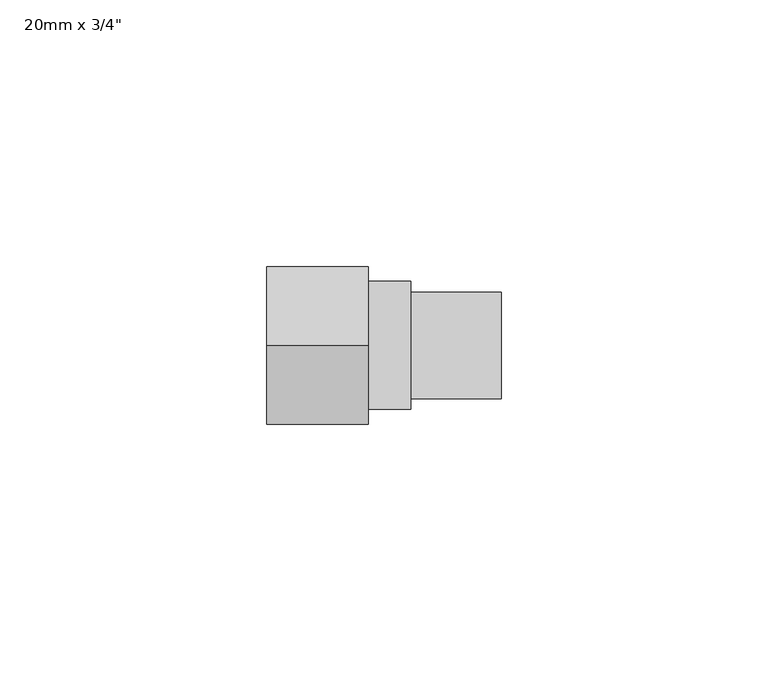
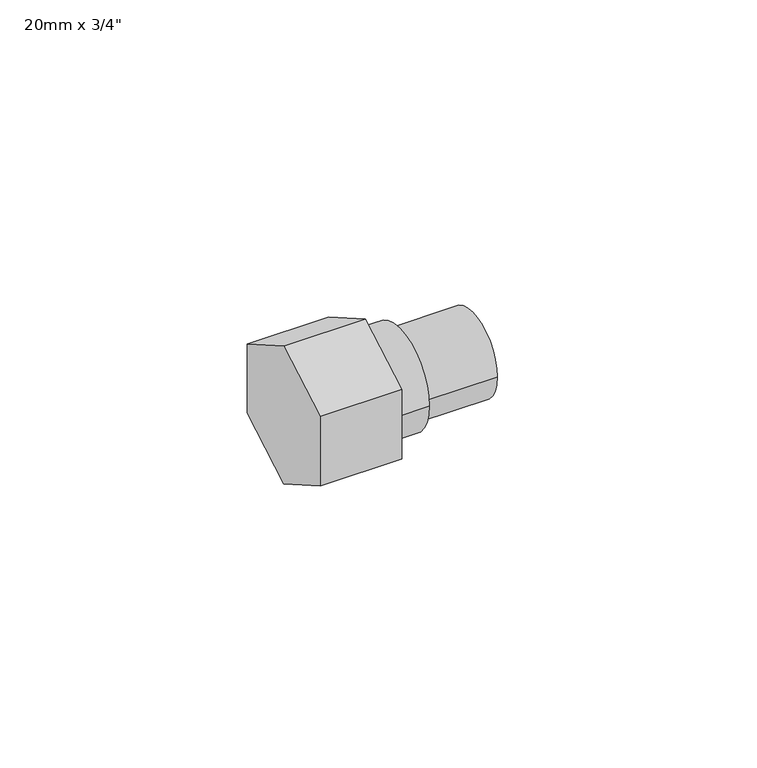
"""IFC4 building model written with IfcOpenShell, lengths in millimetres: pipe fitting geometry."""

from ifc_helpers import new_model, si_unit, point, frame, origin, origin_2d, place, context, project, spatial, polyline, circle_curve, trimmed, segment, composite_curve, outline, extrude, source, transform, mapped, element, save


def pipe_fitting_4f02a236(model_context):
    return source(origin(), model_context, "Body", "SweptSolid", [
        extrude(outline(composite_curve([segment(trimmed(circle_curve(origin_2d(), 12.0), [point((12.0, 0.0))], [point((-12.0, 0.0))], False, "CARTESIAN"), True, "CONTINUOUS"), segment(trimmed(circle_curve(origin_2d(), 12.0), [point((-12.0, 0.0))], [point((12.0, 0.0))], False, "CARTESIAN"), True, "CONTINUOUS")], self_intersect=False)), frame((19.0, 0.0, 0.0), z_axis=(1.0, 0.0, 0.0), x_axis=(0.0, 1.0, 0.0)), (0.0, 0.0, 1.0), 8.0),
        extrude(outline(composite_curve([segment(trimmed(circle_curve(origin_2d(), 10.0), [point((10.0, 0.0))], [point((-10.0, 0.0))], False, "CARTESIAN"), True, "CONTINUOUS"), segment(trimmed(circle_curve(origin_2d(), 10.0), [point((-10.0, 0.0))], [point((10.0, 0.0))], False, "CARTESIAN"), True, "CONTINUOUS")], self_intersect=False)), frame((27.0, 0.0, 0.0), z_axis=(1.0, 0.0, 0.0), x_axis=(0.0, 1.0, 0.0)), (0.0, 0.0, 1.0), 17.0),
        extrude(outline(polyline([(0.0, 17.0318329), (14.75, 8.5159165), (14.75, -8.5159165), (0.0, -17.0318329), (-14.75, -8.5159165), (-14.75, 8.5159165), (0.0, 17.0318329)])), frame((0.0, 0.0, 0.0), z_axis=(1.0, 0.0, 0.0), x_axis=(0.0, 1.0, 0.0)), (0.0, 0.0, 1.0), 19.0),
    ])


if __name__ == "__main__":
    model = new_model("IFC4")
    model_context = context("Model", 3, world=origin())
    ifc_project = project(units=[si_unit("LENGTHUNIT", "METRE", prefix="MILLI")], contexts=[model_context])
    site = spatial("IfcSite", under=ifc_project)
    building = spatial("IfcBuilding", under=site)
    placement = place(None, origin())
    pipe_fitting_shape = pipe_fitting_4f02a236(model_context)
    element("IfcPipeFitting", 1, ObjectType="PipeFitting_HTA_CPVC_TapConnectorsWithBrassNuts : 20mm x 3/4\"", at=placement, inside=building, context=model_context, shape_type="MappedRepresentation", body=[
        mapped(pipe_fitting_shape, transform((0.0, 0.0, 0.0), x_axis=(1.0, 0.0, 0.0), y_axis=(0.0, 1.0, 0.0), z_axis=(0.0, 0.0, 1.0))),
    ])
    save(model, "model.ifc")
